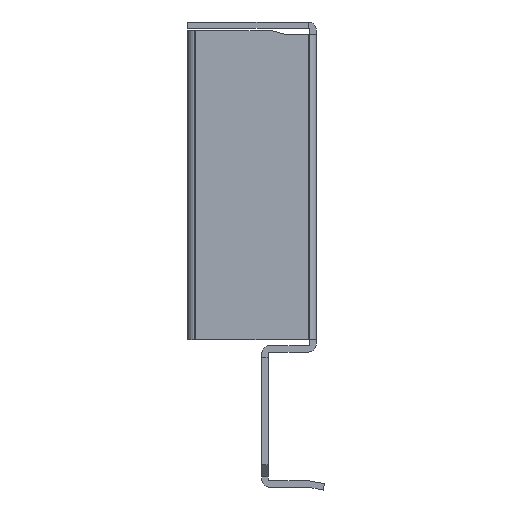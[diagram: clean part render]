
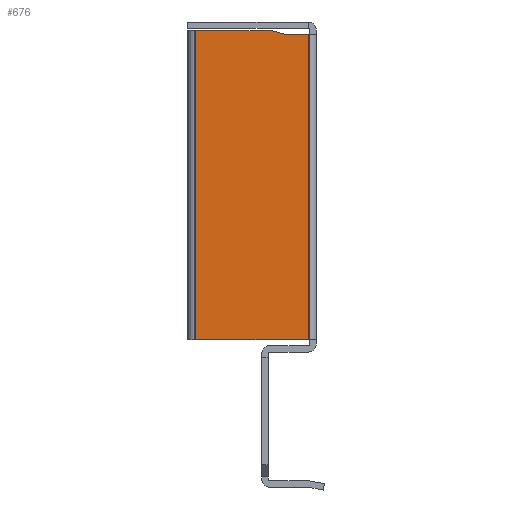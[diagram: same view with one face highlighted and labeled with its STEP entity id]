
A CAD part, left-side view. The second image highlights one B-rep face of the part: STEP entity #676.
In plain terms, the highlighted planar face has unit normal (-1, 0, 0).
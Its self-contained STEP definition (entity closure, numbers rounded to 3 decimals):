
#65 = VERTEX_POINT ( 'NONE', #420 ) ;
#108 = DIRECTION ( 'NONE',  ( 0., -1., 0. ) ) ;
#109 = DIRECTION ( 'NONE',  ( -1., 0., 0. ) ) ;
#110 = CARTESIAN_POINT ( 'NONE',  ( -405., -5., 74.385 ) ) ;
#112 = PLANE ( 'NONE',  #1327 ) ;
#140 = VERTEX_POINT ( 'NONE', #403 ) ;
#281 = CARTESIAN_POINT ( 'NONE',  ( -405., -5., 17.5 ) ) ;
#314 = CARTESIAN_POINT ( 'NONE',  ( -405., 9., 17.5 ) ) ;
#331 = CARTESIAN_POINT ( 'NONE',  ( -405., -5., 55.5 ) ) ;
#364 = CARTESIAN_POINT ( 'NONE',  ( -405., -2., 55.5 ) ) ;
#403 = CARTESIAN_POINT ( 'NONE',  ( -405., -0.507, 55.9 ) ) ;
#420 = CARTESIAN_POINT ( 'NONE',  ( -405., 9., 55.9 ) ) ;
#441 = VERTEX_POINT ( 'NONE', #364 ) ;
#478 = VERTEX_POINT ( 'NONE', #331 ) ;
#510 = VERTEX_POINT ( 'NONE', #314 ) ;
#538 = VERTEX_POINT ( 'NONE', #281 ) ;
#676 = ADVANCED_FACE ( 'NONE', ( #1754 ), #112, .T. ) ;
#875 = EDGE_LOOP ( 'NONE', ( #1608, #1609, #1610, #1611, #1612, #1613 ) ) ;
#1108 = EDGE_CURVE ( 'NONE', #538, #510, #1873, .T. ) ;
#1116 = EDGE_CURVE ( 'NONE', #140, #65, #1886, .T. ) ;
#1124 = EDGE_CURVE ( 'NONE', #65, #510, #1901, .T. ) ;
#1125 = EDGE_CURVE ( 'NONE', #441, #478, #1903, .T. ) ;
#1126 = EDGE_CURVE ( 'NONE', #140, #441, #1905, .T. ) ;
#1127 = EDGE_CURVE ( 'NONE', #478, #538, #1907, .T. ) ;
#1327 = AXIS2_PLACEMENT_3D ( 'NONE', #110, #109, #108 ) ;
#1608 = ORIENTED_EDGE ( 'NONE', *, *, #1125, .F. ) ;
#1609 = ORIENTED_EDGE ( 'NONE', *, *, #1126, .F. ) ;
#1610 = ORIENTED_EDGE ( 'NONE', *, *, #1116, .T. ) ;
#1611 = ORIENTED_EDGE ( 'NONE', *, *, #1124, .T. ) ;
#1612 = ORIENTED_EDGE ( 'NONE', *, *, #1108, .F. ) ;
#1613 = ORIENTED_EDGE ( 'NONE', *, *, #1127, .F. ) ;
#1754 = FACE_OUTER_BOUND ( 'NONE', #875, .T. ) ;
#1873 = LINE ( 'NONE', #2476, #1875 ) ;
#1875 = VECTOR ( 'NONE', #2473, 1000. ) ;
#1886 = LINE ( 'NONE', #2448, #1888 ) ;
#1888 = VECTOR ( 'NONE', #2447, 1000. ) ;
#1901 = LINE ( 'NONE', #2422, #1902 ) ;
#1902 = VECTOR ( 'NONE', #2421, 1000. ) ;
#1903 = LINE ( 'NONE', #2420, #1904 ) ;
#1904 = VECTOR ( 'NONE', #2417, 1000. ) ;
#1905 = LINE ( 'NONE', #2416, #1906 ) ;
#1906 = VECTOR ( 'NONE', #2415, 1000. ) ;
#1907 = LINE ( 'NONE', #2414, #1908 ) ;
#1908 = VECTOR ( 'NONE', #2412, 1000. ) ;
#2412 = DIRECTION ( 'NONE',  ( 0., 0., -1. ) ) ;
#2414 = CARTESIAN_POINT ( 'NONE',  ( -405., -5., 74.385 ) ) ;
#2415 = DIRECTION ( 'NONE',  ( 0., -0.966, -0.259 ) ) ;
#2416 = CARTESIAN_POINT ( 'NONE',  ( -405., 0.612, 56.2 ) ) ;
#2417 = DIRECTION ( 'NONE',  ( 0., -1., 0. ) ) ;
#2420 = CARTESIAN_POINT ( 'NONE',  ( -405., -2., 55.5 ) ) ;
#2421 = DIRECTION ( 'NONE',  ( 0., 0., -1. ) ) ;
#2422 = CARTESIAN_POINT ( 'NONE',  ( -405., 9., 74.385 ) ) ;
#2447 = DIRECTION ( 'NONE',  ( 0., 1., 0. ) ) ;
#2448 = CARTESIAN_POINT ( 'NONE',  ( -405., -5., 55.9 ) ) ;
#2473 = DIRECTION ( 'NONE',  ( 0., 1., 0. ) ) ;
#2476 = CARTESIAN_POINT ( 'NONE',  ( -405., -5., 17.5 ) ) ;
